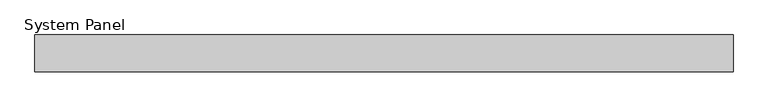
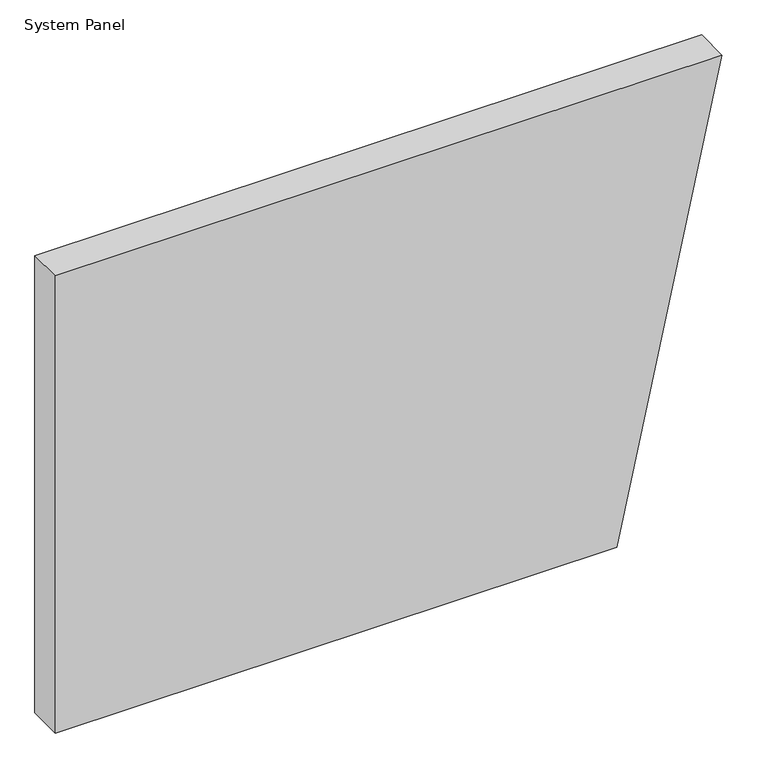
"""IFC4 building model written with IfcOpenShell, lengths in millimetres: plate geometry, System Panel : Inspire 80mm Horizontal - Plain RHEA-PIR."""

from ifc_helpers import new_model, si_unit, frame, origin, place, context, project, spatial, polyline, outline, extrude, source, transform, mapped, element, save


def system_panel_7735773b(model_context):
    return source(origin(), model_context, "Body", "SweptSolid", [
        extrude(outline(polyline([(0.0, -758.698535), (0.0, 519.5661783), (1100.0, 758.698535), (1100.0, -758.698535), (0.0, -758.698535)])), frame((0.0, -80.0, 0.0), z_axis=(0.0, 1.0, 0.0), x_axis=(0.0, 0.0, 1.0)), (0.0, 0.0, 1.0), 80.0),
    ])


if __name__ == "__main__":
    model = new_model("IFC4")
    model_context = context("Model", 3, world=origin())
    ifc_project = project(units=[si_unit("LENGTHUNIT", "METRE", prefix="MILLI")], contexts=[model_context])
    site = spatial("IfcSite", under=ifc_project)
    building = spatial("IfcBuilding", under=site)
    placement = place(None, origin())
    system_panel_shape = system_panel_7735773b(model_context)
    element("IfcPlate", 1, ObjectType="System Panel : Inspire 80mm Horizontal - Plain RHEA-PIR", at=placement, inside=building, context=model_context, shape_type="MappedRepresentation", body=[
        mapped(system_panel_shape, transform((0.0, 0.0, 0.0), x_axis=(1.0, 0.0, 0.0), y_axis=(0.0, 1.0, 0.0), z_axis=(0.0, 0.0, 1.0))),
    ])
    save(model, "model.ifc")
